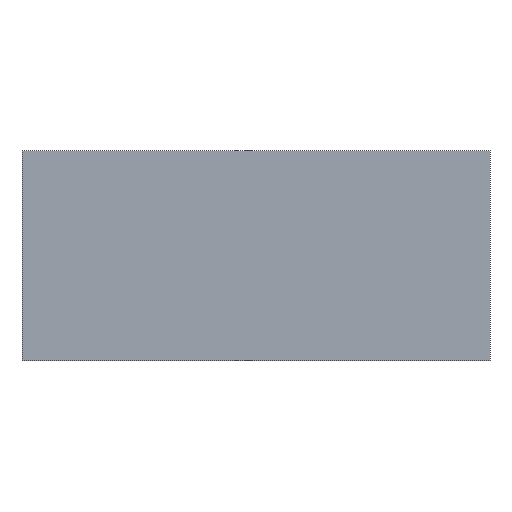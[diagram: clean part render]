
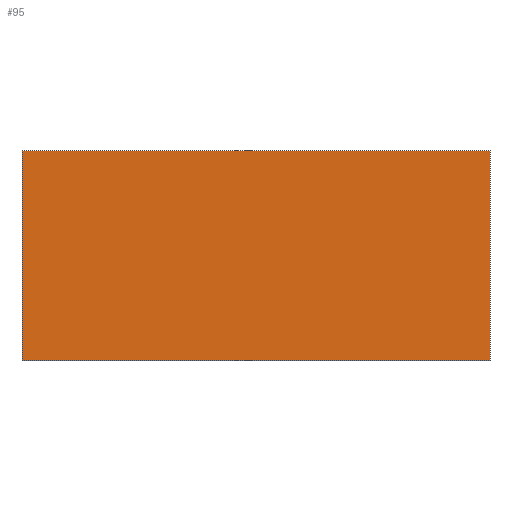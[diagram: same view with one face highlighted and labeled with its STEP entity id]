
A CAD part, front view. The second image highlights one B-rep face of the part: STEP entity #95.
In plain terms, the highlighted planar face has unit normal (0, -1, 0).
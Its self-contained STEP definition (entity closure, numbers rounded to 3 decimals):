
#1=DIRECTION('',(0.,0.,-1.));
#2=VECTOR('',#1,1.75);
#3=CARTESIAN_POINT('',(-1.95,-4.95,1.75));
#4=LINE('',#3,#2);
#9=DIRECTION('',(-1.,0.,0.));
#10=VECTOR('',#9,3.9);
#11=CARTESIAN_POINT('',(1.95,-4.95,0.));
#12=LINE('',#11,#10);
#21=DIRECTION('',(0.,0.,-1.));
#22=VECTOR('',#21,1.75);
#23=CARTESIAN_POINT('',(1.95,-4.95,1.75));
#24=LINE('',#23,#22);
#33=DIRECTION('',(1.,0.,0.));
#34=VECTOR('',#33,3.9);
#35=CARTESIAN_POINT('',(-1.95,-4.95,1.75));
#36=LINE('',#35,#34);
#49=CARTESIAN_POINT('',(-1.95,-4.95,1.75));
#50=CARTESIAN_POINT('',(-1.95,-4.95,0.));
#51=VERTEX_POINT('',#49);
#52=VERTEX_POINT('',#50);
#57=CARTESIAN_POINT('',(1.95,-4.95,1.75));
#58=CARTESIAN_POINT('',(1.95,-4.95,0.));
#59=VERTEX_POINT('',#57);
#60=VERTEX_POINT('',#58);
#81=CARTESIAN_POINT('',(-1.95,-4.95,0.));
#82=DIRECTION('',(0.,1.,0.));
#83=DIRECTION('',(0.,0.,1.));
#84=AXIS2_PLACEMENT_3D('',#81,#82,#83);
#85=PLANE('',#84);
#87=ORIENTED_EDGE('',*,*,#86,.T.);
#88=ORIENTED_EDGE('',*,*,#70,.F.);
#90=ORIENTED_EDGE('',*,*,#89,.T.);
#92=ORIENTED_EDGE('',*,*,#91,.T.);
#93=EDGE_LOOP('',(#87,#88,#90,#92));
#94=FACE_OUTER_BOUND('',#93,.F.);
#95=ADVANCED_FACE('',(#94),#85,.F.);
#70=EDGE_CURVE('',#51,#52,#4,.T.);
#86=EDGE_CURVE('',#60,#52,#12,.T.);
#89=EDGE_CURVE('',#51,#59,#36,.T.);
#91=EDGE_CURVE('',#59,#60,#24,.T.);
